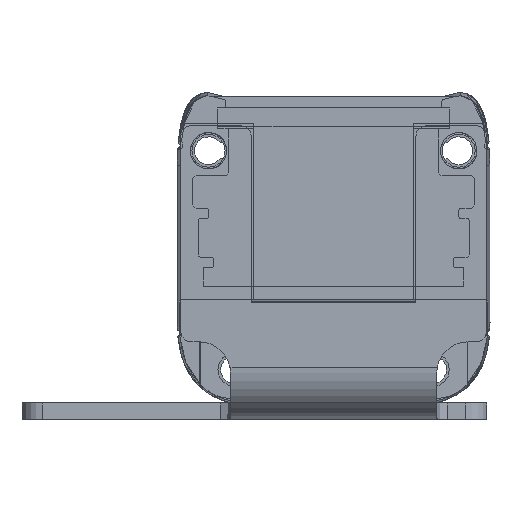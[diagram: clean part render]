
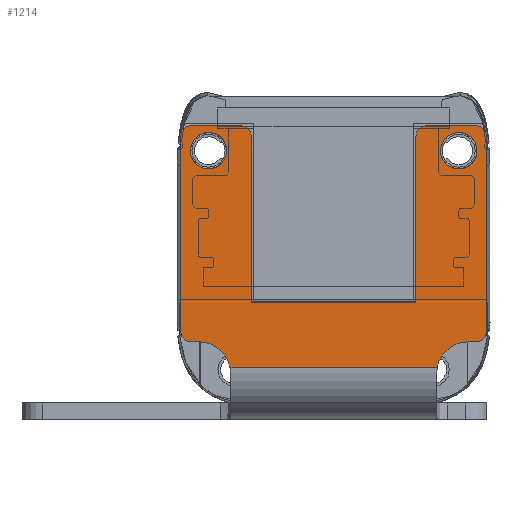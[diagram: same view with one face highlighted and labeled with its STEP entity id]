
A CAD part, front view. The second image highlights one B-rep face of the part: STEP entity #1214.
In plain terms, the highlighted planar face has unit normal (0, -1, 0).
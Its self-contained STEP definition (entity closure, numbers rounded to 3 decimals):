
#1214=ADVANCED_FACE('',(#1904,#1905,#1906),#1492,.T.);
#1492=PLANE('',#9447);
#1797=CIRCLE('',#9437,3.);
#1798=CIRCLE('',#9438,1.);
#1799=CIRCLE('',#9439,1.);
#1800=CIRCLE('',#9440,1.);
#1801=CIRCLE('',#9441,1.);
#1802=CIRCLE('',#9442,1.);
#1803=CIRCLE('',#9443,1.);
#1804=CIRCLE('',#9444,3.);
#1805=CIRCLE('',#9445,1.75);
#1806=CIRCLE('',#9446,1.75);
#1904=FACE_BOUND('',#2370,.T.);
#1905=FACE_BOUND('',#2371,.T.);
#1906=FACE_BOUND('',#2372,.T.);
#2370=EDGE_LOOP('',(#4747,#4748,#4749,#4750,#4751,#4752,#4753,#4754,#4755,
#4756,#4757,#4758,#4759,#4760,#4761,#4762,#4763,#4764));
#2371=EDGE_LOOP('',(#4765));
#2372=EDGE_LOOP('',(#4766));
#4747=ORIENTED_EDGE('',*,*,#6984,.T.);
#4748=ORIENTED_EDGE('',*,*,#6985,.F.);
#4749=ORIENTED_EDGE('',*,*,#6986,.T.);
#4750=ORIENTED_EDGE('',*,*,#6987,.T.);
#4751=ORIENTED_EDGE('',*,*,#6988,.T.);
#4752=ORIENTED_EDGE('',*,*,#6989,.T.);
#4753=ORIENTED_EDGE('',*,*,#6990,.T.);
#4754=ORIENTED_EDGE('',*,*,#6991,.F.);
#4755=ORIENTED_EDGE('',*,*,#6992,.F.);
#4756=ORIENTED_EDGE('',*,*,#6993,.T.);
#4757=ORIENTED_EDGE('',*,*,#6994,.T.);
#4758=ORIENTED_EDGE('',*,*,#6995,.F.);
#4759=ORIENTED_EDGE('',*,*,#6996,.T.);
#4760=ORIENTED_EDGE('',*,*,#6997,.F.);
#4761=ORIENTED_EDGE('',*,*,#6998,.T.);
#4762=ORIENTED_EDGE('',*,*,#6999,.T.);
#4763=ORIENTED_EDGE('',*,*,#7000,.T.);
#4764=ORIENTED_EDGE('',*,*,#7001,.T.);
#4765=ORIENTED_EDGE('',*,*,#7002,.F.);
#4766=ORIENTED_EDGE('',*,*,#7003,.T.);
#5758=VERTEX_POINT('',#15419);
#5759=VERTEX_POINT('',#15420);
#5760=VERTEX_POINT('',#15422);
#5761=VERTEX_POINT('',#15424);
#5762=VERTEX_POINT('',#15426);
#5763=VERTEX_POINT('',#15428);
#5764=VERTEX_POINT('',#15430);
#5765=VERTEX_POINT('',#15432);
#5766=VERTEX_POINT('',#15434);
#5767=VERTEX_POINT('',#15436);
#5768=VERTEX_POINT('',#15438);
#5769=VERTEX_POINT('',#15440);
#5770=VERTEX_POINT('',#15442);
#5771=VERTEX_POINT('',#15444);
#5772=VERTEX_POINT('',#15446);
#5773=VERTEX_POINT('',#15448);
#5774=VERTEX_POINT('',#15450);
#5775=VERTEX_POINT('',#15452);
#5776=VERTEX_POINT('',#15455);
#5777=VERTEX_POINT('',#15457);
#6984=EDGE_CURVE('',#5758,#5759,#1797,.T.);
#6985=EDGE_CURVE('',#5760,#5759,#7863,.T.);
#6986=EDGE_CURVE('',#5760,#5761,#1798,.T.);
#6987=EDGE_CURVE('',#5761,#5762,#7864,.T.);
#6988=EDGE_CURVE('',#5762,#5763,#1799,.T.);
#6989=EDGE_CURVE('',#5763,#5764,#7865,.T.);
#6990=EDGE_CURVE('',#5764,#5765,#1800,.T.);
#6991=EDGE_CURVE('',#5766,#5765,#7866,.T.);
#6992=EDGE_CURVE('',#5767,#5766,#7867,.T.);
#6993=EDGE_CURVE('',#5767,#5768,#7868,.T.);
#6994=EDGE_CURVE('',#5768,#5769,#1801,.T.);
#6995=EDGE_CURVE('',#5770,#5769,#7869,.T.);
#6996=EDGE_CURVE('',#5770,#5771,#1802,.T.);
#6997=EDGE_CURVE('',#5772,#5771,#7870,.T.);
#6998=EDGE_CURVE('',#5772,#5773,#1803,.T.);
#6999=EDGE_CURVE('',#5773,#5774,#7871,.T.);
#7000=EDGE_CURVE('',#5774,#5775,#1804,.T.);
#7001=EDGE_CURVE('',#5775,#5758,#7872,.T.);
#7002=EDGE_CURVE('',#5776,#5776,#1805,.T.);
#7003=EDGE_CURVE('',#5777,#5777,#1806,.T.);
#7863=LINE('',#15421,#8719);
#7864=LINE('',#15425,#8720);
#7865=LINE('',#15429,#8721);
#7866=LINE('',#15433,#8722);
#7867=LINE('',#15435,#8723);
#7868=LINE('',#15437,#8724);
#7869=LINE('',#15441,#8725);
#7870=LINE('',#15445,#8726);
#7871=LINE('',#15449,#8727);
#7872=LINE('',#15453,#8728);
#8719=VECTOR('',#11638,1.);
#8720=VECTOR('',#11641,1.);
#8721=VECTOR('',#11644,1.);
#8722=VECTOR('',#11647,1.);
#8723=VECTOR('',#11648,1.);
#8724=VECTOR('',#11649,1.);
#8725=VECTOR('',#11652,1.);
#8726=VECTOR('',#11655,1.);
#8727=VECTOR('',#11658,1.);
#8728=VECTOR('',#11661,1.);
#9437=AXIS2_PLACEMENT_3D('',#15418,#11636,#11637);
#9438=AXIS2_PLACEMENT_3D('',#15423,#11639,#11640);
#9439=AXIS2_PLACEMENT_3D('',#15427,#11642,#11643);
#9440=AXIS2_PLACEMENT_3D('',#15431,#11645,#11646);
#9441=AXIS2_PLACEMENT_3D('',#15439,#11650,#11651);
#9442=AXIS2_PLACEMENT_3D('',#15443,#11653,#11654);
#9443=AXIS2_PLACEMENT_3D('',#15447,#11656,#11657);
#9444=AXIS2_PLACEMENT_3D('',#15451,#11659,#11660);
#9445=AXIS2_PLACEMENT_3D('',#15454,#11662,#11663);
#9446=AXIS2_PLACEMENT_3D('',#15456,#11664,#11665);
#9447=AXIS2_PLACEMENT_3D('',#15458,#11666,#11667);
#11636=DIRECTION('',(0.,1.,0.));
#11637=DIRECTION('',(0.,0.,1.));
#11638=DIRECTION('',(-1.,0.,0.));
#11639=DIRECTION('',(0.,-1.,0.));
#11640=DIRECTION('',(0.,0.,1.));
#11641=DIRECTION('',(0.,0.,1.));
#11642=DIRECTION('',(0.,-1.,0.));
#11643=DIRECTION('',(0.,0.,-1.));
#11644=DIRECTION('',(-1.,0.,0.));
#11645=DIRECTION('',(0.,-1.,0.));
#11646=DIRECTION('',(0.,0.,-1.));
#11647=DIRECTION('',(0.,0.,1.));
#11648=DIRECTION('',(1.,0.,0.));
#11649=DIRECTION('',(0.,0.,1.));
#11650=DIRECTION('',(0.,-1.,0.));
#11651=DIRECTION('',(0.,0.,1.));
#11652=DIRECTION('',(1.,0.,0.));
#11653=DIRECTION('',(0.,-1.,0.));
#11654=DIRECTION('',(0.,0.,1.));
#11655=DIRECTION('',(0.,0.,1.));
#11656=DIRECTION('',(0.,-1.,0.));
#11657=DIRECTION('',(0.,0.,1.));
#11658=DIRECTION('',(1.,0.,0.));
#11659=DIRECTION('',(0.,1.,0.));
#11660=DIRECTION('',(0.,0.,1.));
#11661=DIRECTION('',(1.,0.,0.));
#11662=DIRECTION('',(0.,-1.,0.));
#11663=DIRECTION('',(0.,0.,1.));
#11664=DIRECTION('',(0.,1.,0.));
#11665=DIRECTION('',(0.,0.,-1.));
#11666=DIRECTION('',(0.,-1.,0.));
#11667=DIRECTION('',(1.,0.,0.));
#15418=CARTESIAN_POINT('',(12.89,-374.2,-139.533));
#15419=CARTESIAN_POINT('',(9.939,-374.2,-138.994));
#15420=CARTESIAN_POINT('',(12.89,-374.2,-136.533));
#15421=CARTESIAN_POINT('',(-7.89,-374.2,-136.533));
#15422=CARTESIAN_POINT('',(13.69,-374.2,-136.533));
#15423=CARTESIAN_POINT('',(13.69,-374.2,-135.533));
#15424=CARTESIAN_POINT('',(14.69,-374.2,-135.533));
#15425=CARTESIAN_POINT('',(14.69,-374.2,-115.6));
#15426=CARTESIAN_POINT('',(14.69,-374.2,-116.8));
#15427=CARTESIAN_POINT('',(13.69,-374.2,-116.8));
#15428=CARTESIAN_POINT('',(13.69,-374.2,-115.8));
#15429=CARTESIAN_POINT('',(7.89,-374.2,-115.8));
#15430=CARTESIAN_POINT('',(8.89,-374.2,-115.8));
#15431=CARTESIAN_POINT('',(8.89,-374.2,-116.8));
#15432=CARTESIAN_POINT('',(7.89,-374.2,-116.8));
#15433=CARTESIAN_POINT('',(7.89,-374.2,-115.6));
#15434=CARTESIAN_POINT('',(7.89,-374.2,-132.733));
#15435=CARTESIAN_POINT('',(-9.89,-374.2,-132.733));
#15436=CARTESIAN_POINT('',(-7.89,-374.2,-132.733));
#15437=CARTESIAN_POINT('',(-7.89,-374.2,-115.6));
#15438=CARTESIAN_POINT('',(-7.89,-374.2,-116.8));
#15439=CARTESIAN_POINT('',(-8.89,-374.2,-116.8));
#15440=CARTESIAN_POINT('',(-8.89,-374.2,-115.8));
#15441=CARTESIAN_POINT('',(-7.89,-374.2,-115.8));
#15442=CARTESIAN_POINT('',(-13.69,-374.2,-115.8));
#15443=CARTESIAN_POINT('',(-13.69,-374.2,-116.8));
#15444=CARTESIAN_POINT('',(-14.69,-374.2,-116.8));
#15445=CARTESIAN_POINT('',(-14.69,-374.2,-115.6));
#15446=CARTESIAN_POINT('',(-14.69,-374.2,-135.533));
#15447=CARTESIAN_POINT('',(-13.69,-374.2,-135.533));
#15448=CARTESIAN_POINT('',(-13.69,-374.2,-136.533));
#15449=CARTESIAN_POINT('',(-7.89,-374.2,-136.533));
#15450=CARTESIAN_POINT('',(-12.89,-374.2,-136.533));
#15451=CARTESIAN_POINT('',(-12.89,-374.2,-139.533));
#15452=CARTESIAN_POINT('',(-9.939,-374.2,-138.994));
#15453=CARTESIAN_POINT('',(-9.89,-374.2,-138.994));
#15454=CARTESIAN_POINT('',(-12.,-374.2,-118.2));
#15455=CARTESIAN_POINT('',(-12.,-374.2,-116.45));
#15456=CARTESIAN_POINT('',(12.,-374.2,-118.2));
#15457=CARTESIAN_POINT('',(12.,-374.2,-119.95));
#15458=CARTESIAN_POINT('',(-9.89,-374.2,-142.394));
